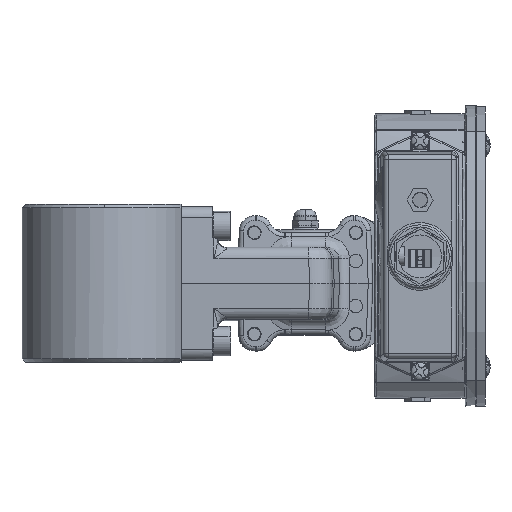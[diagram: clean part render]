
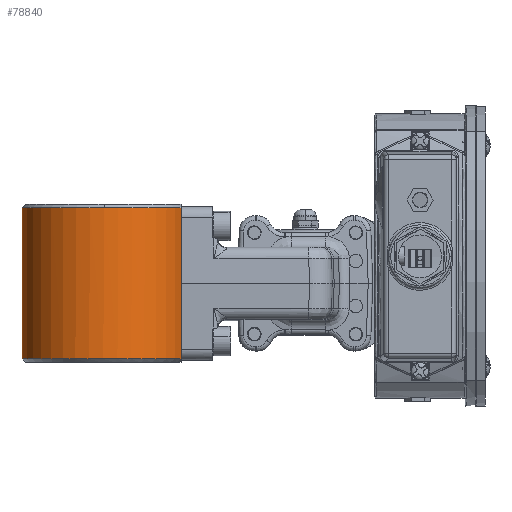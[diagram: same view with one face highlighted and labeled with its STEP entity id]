
A CAD part, front view. The second image highlights one B-rep face of the part: STEP entity #78840.
In plain terms, the highlighted cylindrical face has radius 36.5 mm (diameter 73 mm), a partial arc.
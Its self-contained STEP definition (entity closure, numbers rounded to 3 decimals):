
#2443 = ORIENTED_EDGE ( 'NONE', *, *, #32963, .T. ) ;
#2459 = EDGE_CURVE ( 'NONE', #34775, #26478, #7702, .T. ) ;
#4434 = CIRCLE ( 'NONE', #46227, 36.5 ) ;
#5951 = EDGE_LOOP ( 'NONE', ( #86677, #24345, #48876, #2443, #60963 ) ) ;
#7702 = LINE ( 'NONE', #31747, #68084 ) ;
#12964 = CARTESIAN_POINT ( 'NONE',  ( -55.19, -80.969, 55.968 ) ) ;
#15100 = VERTEX_POINT ( 'NONE', #74726 ) ;
#19318 = CIRCLE ( 'NONE', #64618, 36.5 ) ;
#21768 = VECTOR ( 'NONE', #76270, 1000. ) ;
#22982 = DIRECTION ( 'NONE',  ( 0., 0., -1. ) ) ;
#23909 = CARTESIAN_POINT ( 'NONE',  ( -125.69, -67.693, -11.032 ) ) ;
#24345 = ORIENTED_EDGE ( 'NONE', *, *, #2459, .T. ) ;
#26478 = VERTEX_POINT ( 'NONE', #23909 ) ;
#27100 = CYLINDRICAL_SURFACE ( 'NONE', #94535, 36.5 ) ;
#28696 = VERTEX_POINT ( 'NONE', #85540 ) ;
#29561 = FACE_OUTER_BOUND ( 'NONE', #5951, .T. ) ;
#31747 = CARTESIAN_POINT ( 'NONE',  ( -125.69, -67.693, 57.468 ) ) ;
#32001 = DIRECTION ( 'NONE',  ( 0., 0., -1. ) ) ;
#32351 = EDGE_CURVE ( 'NONE', #96064, #15100, #4434, .T. ) ;
#32963 = EDGE_CURVE ( 'NONE', #28696, #96064, #86735, .T. ) ;
#34605 = EDGE_CURVE ( 'NONE', #26478, #28696, #19318, .T. ) ;
#34775 = VERTEX_POINT ( 'NONE', #52351 ) ;
#35640 = CARTESIAN_POINT ( 'NONE',  ( -89.19, -67.693, -11.032 ) ) ;
#39255 = CARTESIAN_POINT ( 'NONE',  ( -89.19, -67.693, 57.468 ) ) ;
#41831 = CARTESIAN_POINT ( 'NONE',  ( -89.19, -67.693, 55.968 ) ) ;
#43533 = DIRECTION ( 'NONE',  ( -1., 0., 0. ) ) ;
#46227 = AXIS2_PLACEMENT_3D ( 'NONE', #41831, #96341, #49644 ) ;
#48876 = ORIENTED_EDGE ( 'NONE', *, *, #34605, .T. ) ;
#49644 = DIRECTION ( 'NONE',  ( -1., 0., 0. ) ) ;
#52351 = CARTESIAN_POINT ( 'NONE',  ( -125.69, -67.693, 55.968 ) ) ;
#54898 = DIRECTION ( 'NONE',  ( -1., 0., 0. ) ) ;
#60963 = ORIENTED_EDGE ( 'NONE', *, *, #32351, .T. ) ;
#64618 = AXIS2_PLACEMENT_3D ( 'NONE', #35640, #90265, #43533 ) ;
#68084 = VECTOR ( 'NONE', #32001, 1000. ) ;
#69990 = CARTESIAN_POINT ( 'NONE',  ( -89.19, -67.693, 55.968 ) ) ;
#74726 = CARTESIAN_POINT ( 'NONE',  ( -89.19, -104.193, 55.968 ) ) ;
#76270 = DIRECTION ( 'NONE',  ( 0., 0., 1. ) ) ;
#77859 = DIRECTION ( 'NONE',  ( -1., 0., 0. ) ) ;
#78840 = ADVANCED_FACE ( 'NONE', ( #29561 ), #27100, .T. ) ;
#78933 = DIRECTION ( 'NONE',  ( 0., 0., -1. ) ) ;
#82489 = AXIS2_PLACEMENT_3D ( 'NONE', #69990, #22982, #77859 ) ;
#84120 = CARTESIAN_POINT ( 'NONE',  ( -55.19, -80.969, 57.468 ) ) ;
#85289 = EDGE_CURVE ( 'NONE', #15100, #34775, #85451, .T. ) ;
#85451 = CIRCLE ( 'NONE', #82489, 36.5 ) ;
#85540 = CARTESIAN_POINT ( 'NONE',  ( -55.19, -80.969, -11.032 ) ) ;
#86677 = ORIENTED_EDGE ( 'NONE', *, *, #85289, .T. ) ;
#86735 = LINE ( 'NONE', #84120, #21768 ) ;
#90265 = DIRECTION ( 'NONE',  ( 0., 0., 1. ) ) ;
#94535 = AXIS2_PLACEMENT_3D ( 'NONE', #39255, #78933, #54898 ) ;
#96064 = VERTEX_POINT ( 'NONE', #12964 ) ;
#96341 = DIRECTION ( 'NONE',  ( 0., 0., -1. ) ) ;
